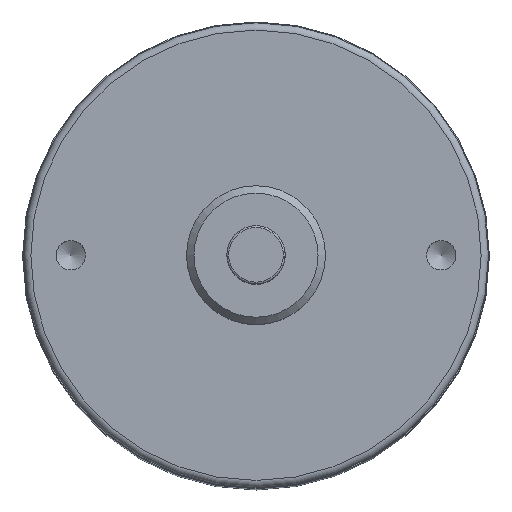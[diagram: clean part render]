
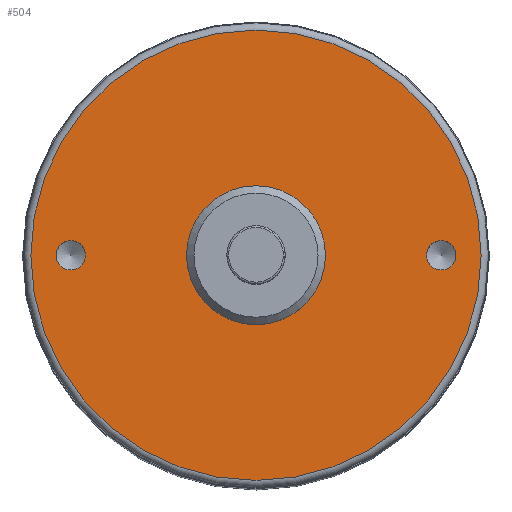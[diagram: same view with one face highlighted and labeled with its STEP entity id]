
A CAD part, top view. The second image highlights one B-rep face of the part: STEP entity #504.
In plain terms, the highlighted planar face has unit normal (0, 0, 1).
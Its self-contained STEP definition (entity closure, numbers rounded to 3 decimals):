
#20=FACE_BOUND('',#167,.T.);
#21=FACE_BOUND('',#168,.T.);
#22=FACE_BOUND('',#169,.T.);
#27=PLANE('',#586);
#127=FACE_OUTER_BOUND('',#166,.T.);
#166=EDGE_LOOP('',(#424));
#167=EDGE_LOOP('',(#425));
#168=EDGE_LOOP('',(#426));
#169=EDGE_LOOP('',(#427));
#183=CIRCLE('',#534,30.877);
#198=CIRCLE('',#553,2.019);
#200=CIRCLE('',#557,2.019);
#209=CIRCLE('',#574,9.525);
#219=VERTEX_POINT('',#774);
#231=VERTEX_POINT('',#806);
#234=VERTEX_POINT('',#815);
#244=VERTEX_POINT('',#850);
#263=EDGE_CURVE('',#219,#219,#183,.T.);
#280=EDGE_CURVE('',#231,#231,#198,.T.);
#284=EDGE_CURVE('',#234,#234,#200,.T.);
#300=EDGE_CURVE('',#244,#244,#209,.T.);
#424=ORIENTED_EDGE('',*,*,#263,.T.);
#425=ORIENTED_EDGE('',*,*,#280,.F.);
#426=ORIENTED_EDGE('',*,*,#284,.F.);
#427=ORIENTED_EDGE('',*,*,#300,.F.);
#504=ADVANCED_FACE('',(#127,#20,#21,#22),#27,.T.);
#534=AXIS2_PLACEMENT_3D('',#775,#612,#613);
#553=AXIS2_PLACEMENT_3D('',#808,#652,#653);
#557=AXIS2_PLACEMENT_3D('',#817,#662,#663);
#574=AXIS2_PLACEMENT_3D('',#851,#703,#704);
#586=AXIS2_PLACEMENT_3D('',#920,#734,#735);
#612=DIRECTION('center_axis',(0.,0.,1.));
#613=DIRECTION('ref_axis',(1.,0.,0.));
#652=DIRECTION('center_axis',(0.,0.,1.));
#653=DIRECTION('ref_axis',(1.,0.,0.));
#662=DIRECTION('center_axis',(0.,0.,1.));
#663=DIRECTION('ref_axis',(1.,0.,0.));
#703=DIRECTION('center_axis',(0.,0.,1.));
#704=DIRECTION('ref_axis',(1.,0.,0.));
#734=DIRECTION('center_axis',(0.,0.,1.));
#735=DIRECTION('ref_axis',(1.,0.,0.));
#774=CARTESIAN_POINT('',(4.683,109.296,19.05));
#775=CARTESIAN_POINT('Origin',(35.56,109.296,19.05));
#806=CARTESIAN_POINT('',(8.141,109.296,19.05));
#808=CARTESIAN_POINT('Origin',(10.16,109.296,19.05));
#815=CARTESIAN_POINT('',(58.941,109.296,19.05));
#817=CARTESIAN_POINT('Origin',(60.96,109.296,19.05));
#850=CARTESIAN_POINT('',(45.085,109.296,19.05));
#851=CARTESIAN_POINT('Origin',(35.56,109.296,19.05));
#920=CARTESIAN_POINT('Origin',(35.56,109.296,19.05));
